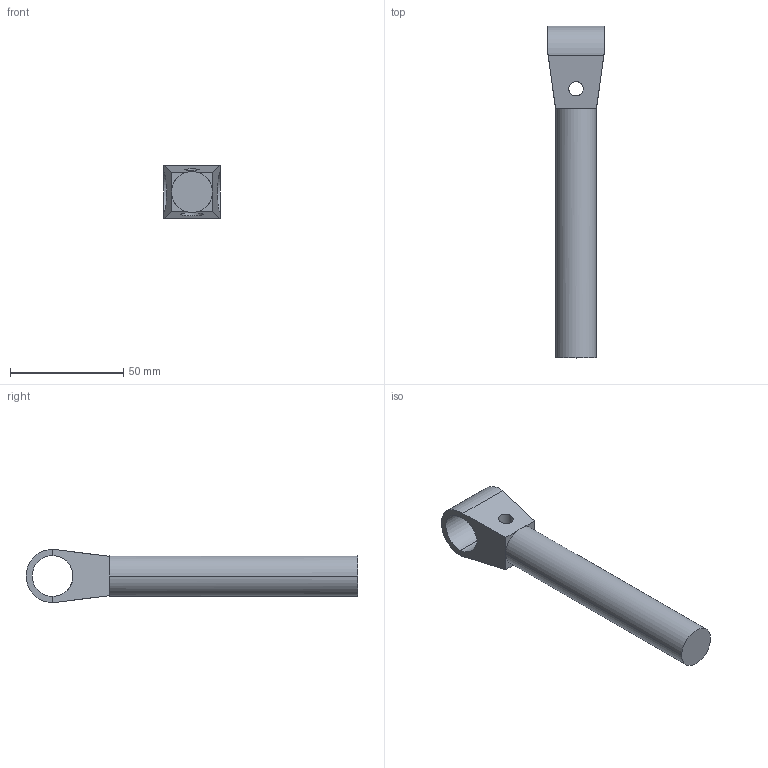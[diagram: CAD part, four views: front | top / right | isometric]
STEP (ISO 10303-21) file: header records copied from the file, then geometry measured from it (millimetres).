
FILE_DESCRIPTION (( 'STEP AP214' ), '1' );
FILE_NAME ('FGRL 18X110CA.step', '2017-04-05T07:43:32', ( '' ), ( '' ), 'SwSTEP 2.0', 'SolidWorks 2015', '' );
FILE_SCHEMA (( 'AUTOMOTIVE_DESIGN' ));
Length unit declared in the file: millimetre
Products named in the file (1): FGRL 18X110CA
Bounding box: 25 x 146.68 x 23.5 mm (x, y, z)
Volume: 37469.7 mm3; surface area: 11241.3 mm2
Topology: 1 solids, 1 shells, 24 faces, 61 edges, 38 vertices
Faces by surface type: plane 14, cylinder 10
Entity records: 765 total; most frequent: CARTESIAN_POINT 154, DIRECTION 123, ORIENTED_EDGE 122, EDGE_CURVE 61, AXIS2_PLACEMENT_3D 47, VERTEX_POINT 38, VECTOR 29, LINE 29
